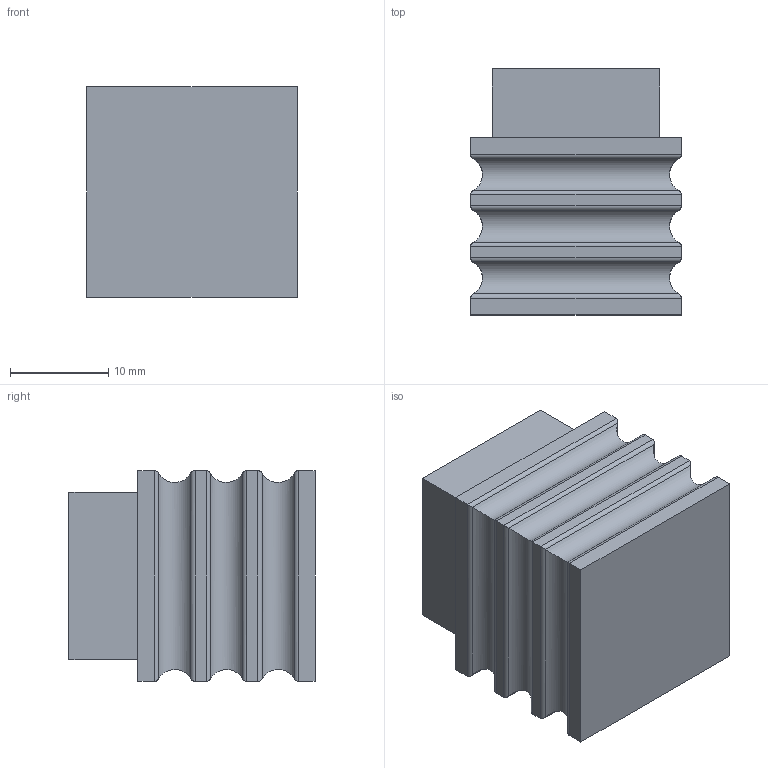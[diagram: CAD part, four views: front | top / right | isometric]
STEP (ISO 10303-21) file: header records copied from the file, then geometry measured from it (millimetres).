
FILE_DESCRIPTION( ( 'STEP AP214' ), '1' );
FILE_NAME( 'C:/Users/swati/Desktop/buena/9208068/9208068.stp', ' ', ( ' ' ), ( ' ' ), 'PSStep 15.0.47', 'PARTsolutions', ' ' );
FILE_SCHEMA( ( 'AUTOMOTIVE_DESIGN { 1 0 10303 214 1 1 1 1 }' ) );
Length unit declared in the file: millimetre
Products named in the file (2): 95 ; _
Assembly tree (1 placements, depth 2):
  95 
    _
Bounding box: 21.4 x 25 x 21.4 mm (x, y, z)
Volume: 9411.1 mm3; surface area: 3173.1 mm2
Topology: 1 solids, 1 shells, 61 faces, 123 edges, 66 vertices
Faces by surface type: cylinder 37, plane 24
Full cylindrical faces by diameter (mm): 4 x1
Entity records: 2052 total; most frequent: DIRECTION 286, CARTESIAN_POINT 251, ORIENTED_EDGE 244, EDGE_CURVE 122, AXIS2_PLACEMENT_3D 101, LINE 84, VECTOR 84, VERTEX_POINT 66
